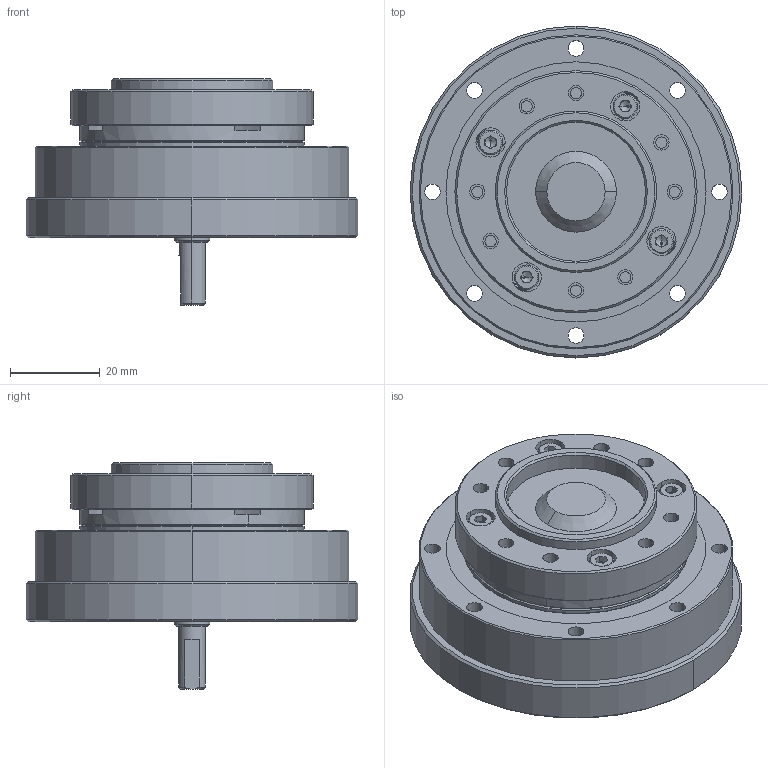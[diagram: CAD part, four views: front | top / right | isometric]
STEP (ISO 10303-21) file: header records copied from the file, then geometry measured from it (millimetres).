
FILE_DESCRIPTION (( 'STEP AP203' ), '1' );
FILE_NAME ('BHS-14-XXX-U-¢ô.STEP', '2019-01-15T03:41:09', ( 'User' ), ( 'China' ), 'SwSTEP 2.0', 'SolidWorks 2015', '' );
FILE_SCHEMA (( 'CONFIG_CONTROL_DESIGN' ));
Length unit declared in the file: millimetre
Products named in the file (1): BHS-14-XXX-U-ｌ
Bounding box: 74 x 74 x 50.5 mm (x, y, z)
Surface area: 23356 mm2 (no closed solid volume)
Topology: 0 solids, 14 shells, 224 faces, 658 edges, 425 vertices
Faces by surface type: cylinder 94, plane 71, cone 53, torus 6
Entity records: 7515 total; most frequent: DIRECTION 1437, CARTESIAN_POINT 1306, ORIENTED_EDGE 1070, EDGE_CURVE 646, AXIS2_PLACEMENT_3D 568, VERTEX_POINT 425, CIRCLE 343, VECTOR 301
